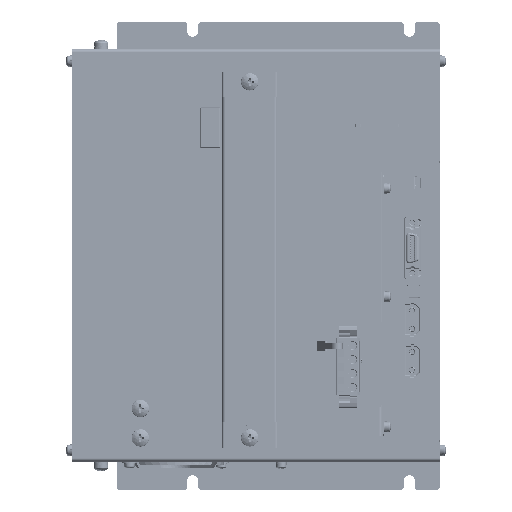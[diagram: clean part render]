
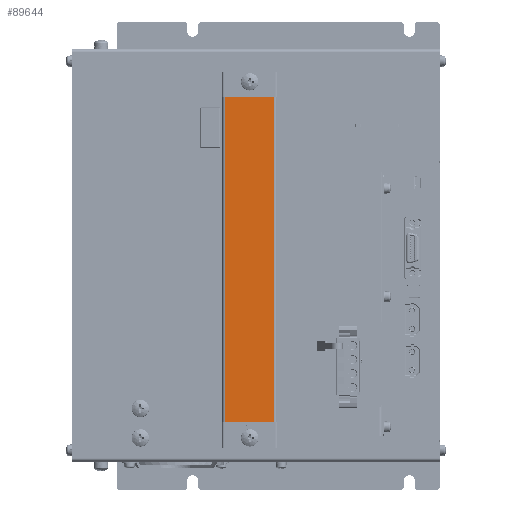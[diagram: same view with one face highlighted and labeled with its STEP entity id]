
A CAD part, top view. The second image highlights one B-rep face of the part: STEP entity #89644.
In plain terms, the highlighted planar face has unit normal (0, 0, 1).
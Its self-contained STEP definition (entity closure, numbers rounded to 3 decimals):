
#3002 = VERTEX_POINT ( 'NONE', #436794 ) ;
#10512 = AXIS2_PLACEMENT_3D ( 'NONE', #211757, #68433, #471217 ) ;
#19104 = ORIENTED_EDGE ( 'NONE', *, *, #240401, .T. ) ;
#52582 = DIRECTION ( 'NONE',  ( 1., 0., 0. ) ) ;
#68433 = DIRECTION ( 'NONE',  ( 0., 0., 1. ) ) ;
#81379 = CARTESIAN_POINT ( 'NONE',  ( 110., 198.5, 26. ) ) ;
#89644 = ADVANCED_FACE ( 'NONE', ( #445840 ), #355079, .T. ) ;
#89941 = VECTOR ( 'NONE', #410900, 1000. ) ;
#115551 = CARTESIAN_POINT ( 'NONE',  ( 110., 198.5, 26. ) ) ;
#117049 = CARTESIAN_POINT ( 'NONE',  ( 110., 21.5, 26. ) ) ;
#142947 = CARTESIAN_POINT ( 'NONE',  ( 83.2, 198.5, 26. ) ) ;
#154186 = EDGE_CURVE ( 'NONE', #368126, #287997, #260760, .T. ) ;
#168913 = CARTESIAN_POINT ( 'NONE',  ( 83.2, 198.5, 26. ) ) ;
#199997 = LINE ( 'NONE', #270700, #422052 ) ;
#200718 = EDGE_LOOP ( 'NONE', ( #378276, #251863, #334953, #19104 ) ) ;
#211757 = CARTESIAN_POINT ( 'NONE',  ( 83.2, 198.5, 26. ) ) ;
#220097 = EDGE_CURVE ( 'NONE', #287997, #242866, #324485, .T. ) ;
#240401 = EDGE_CURVE ( 'NONE', #3002, #368126, #199997, .T. ) ;
#242866 = VERTEX_POINT ( 'NONE', #168913 ) ;
#245903 = CARTESIAN_POINT ( 'NONE',  ( 83.2, 198.5, 26. ) ) ;
#251863 = ORIENTED_EDGE ( 'NONE', *, *, #220097, .T. ) ;
#260760 = LINE ( 'NONE', #81379, #89941 ) ;
#270700 = CARTESIAN_POINT ( 'NONE',  ( 83.2, 21.5, 26. ) ) ;
#287997 = VERTEX_POINT ( 'NONE', #115551 ) ;
#320808 = DIRECTION ( 'NONE',  ( 0., -1., 0. ) ) ;
#324485 = LINE ( 'NONE', #142947, #335787 ) ;
#334953 = ORIENTED_EDGE ( 'NONE', *, *, #432801, .T. ) ;
#335787 = VECTOR ( 'NONE', #399207, 1000. ) ;
#355079 = PLANE ( 'NONE',  #10512 ) ;
#368126 = VERTEX_POINT ( 'NONE', #117049 ) ;
#378276 = ORIENTED_EDGE ( 'NONE', *, *, #154186, .T. ) ;
#399207 = DIRECTION ( 'NONE',  ( -1., 0., 0. ) ) ;
#410900 = DIRECTION ( 'NONE',  ( 0., 1., 0. ) ) ;
#422052 = VECTOR ( 'NONE', #52582, 1000. ) ;
#426988 = LINE ( 'NONE', #245903, #455733 ) ;
#432801 = EDGE_CURVE ( 'NONE', #242866, #3002, #426988, .T. ) ;
#436794 = CARTESIAN_POINT ( 'NONE',  ( 83.2, 21.5, 26. ) ) ;
#445840 = FACE_OUTER_BOUND ( 'NONE', #200718, .T. ) ;
#455733 = VECTOR ( 'NONE', #320808, 1000. ) ;
#471217 = DIRECTION ( 'NONE',  ( -1., 0., 0. ) ) ;
